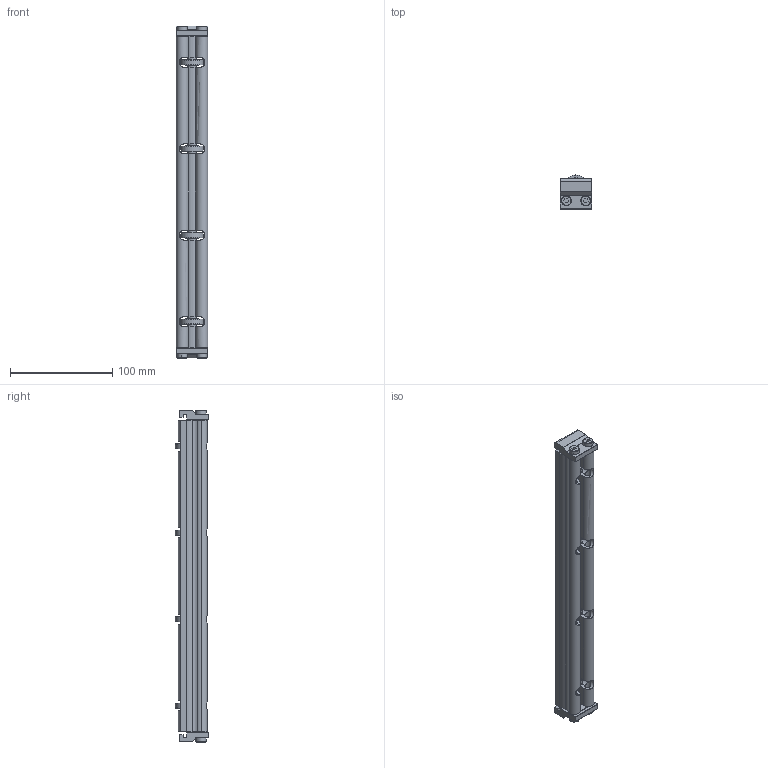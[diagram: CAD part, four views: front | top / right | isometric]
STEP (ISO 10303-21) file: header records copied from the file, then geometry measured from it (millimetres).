
FILE_DESCRIPTION((''),'2;1');
FILE_NAME('206523-12_ASM','2023-02-27T',('jenni.wallner'),(''),'PRO/ENGINEER BY PARAMETRIC TECHNOLOGY CORPORATION, 2012420','PRO/ENGINEER BY PARAMETRIC TECHNOLOGY CORPORATION, 2012420','');
FILE_SCHEMA(('CONFIG_CONTROL_DESIGN'));
Length unit declared in the file: inch
Products named in the file (7): 2436WW_243612; 2410WW_241012; 240826; 9506XXM_950612M; 205977_205978_205979_205978; ASM0001_ASM; 206523-12_ASM
Assembly tree (13 placements, depth 3):
  206523-12_ASM
    ASM0001_ASM
      2436WW_243612
      2410WW_241012
      240826  x4
      9506XXM_950612M  x4
      205977_205978_205979_205978  x2
Bounding box: 30.89 x 33.01 x 325.35 mm (x, y, z)
Volume: 157228.1 mm3; surface area: 94649 mm2
Topology: 12 solids, 12 shells, 366 faces, 994 edges, 652 vertices
Faces by surface type: cylinder 160, plane 138, cone 52, torus 16
Entity records: 8472 total; most frequent: CARTESIAN_POINT 1967, DIRECTION 1393, ORIENTED_EDGE 1346, EDGE_CURVE 673, AXIS2_PLACEMENT_3D 533, VERTEX_POINT 446, VECTOR 327, LINE 327
